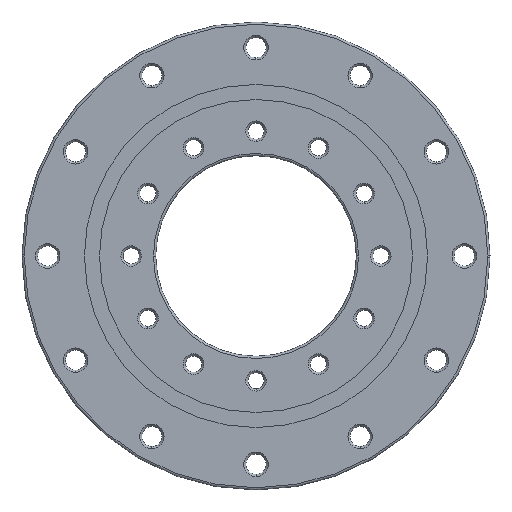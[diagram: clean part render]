
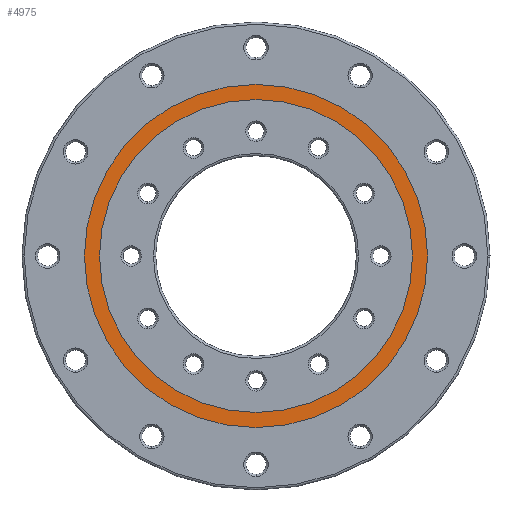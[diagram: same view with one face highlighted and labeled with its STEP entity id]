
A CAD part, front view. The second image highlights one B-rep face of the part: STEP entity #4975.
In plain terms, the highlighted planar face has unit normal (0, -1, 0).
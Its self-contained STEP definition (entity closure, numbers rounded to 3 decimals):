
#2931=VERTEX_POINT('',#7525);
#3553=VERTEX_POINT('',#8221);
#4435=VERTEX_POINT('',#9219);
#4815=EDGE_CURVE('',#3553,#2931,#9643,.T.);
#4975=ADVANCED_FACE('',(#9851,#9852),#9853,.F.);
#5153=VERTEX_POINT('',#10045);
#5237=EDGE_CURVE('',#2931,#3553,#10138,.T.);
#5291=EDGE_CURVE('',#4435,#5153,#10196,.T.);
#6571=EDGE_CURVE('',#5153,#4435,#11642,.T.);
#7525=CARTESIAN_POINT('',(70.2,0.0,0.0));
#8221=CARTESIAN_POINT('',(-70.2,0.0,0.0));
#9219=CARTESIAN_POINT('',(-77.0,0.0,0.));
#9643=CIRCLE('',#15549,70.2);
#9851=FACE_OUTER_BOUND('',#15795,.T.);
#9852=FACE_BOUND('',#15796,.T.);
#9853=PLANE('',#15797);
#10045=CARTESIAN_POINT('',(77.0,0.0,0.0));
#10138=CIRCLE('',#16155,70.2);
#10196=CIRCLE('',#16232,77.0);
#11642=CIRCLE('',#18085,77.0);
#15549=AXIS2_PLACEMENT_3D('',#21963,#21964,#21965);
#15795=EDGE_LOOP('',(#22315,#22316));
#15796=EDGE_LOOP('',(#22317,#22318));
#15797=AXIS2_PLACEMENT_3D('',#22319,#22320,#22321);
#16155=AXIS2_PLACEMENT_3D('',#22639,#22640,#22641);
#16232=AXIS2_PLACEMENT_3D('',#22716,#22717,#22718);
#18085=AXIS2_PLACEMENT_3D('',#24626,#24627,#24628);
#21963=CARTESIAN_POINT('',(0.0,0.0,0.0));
#21964=DIRECTION('',(0.0,-1.0,0.0));
#21965=DIRECTION('',(-1.0,0.0,0.0));
#22315=ORIENTED_EDGE('',*,*,#5291,.F.);
#22316=ORIENTED_EDGE('',*,*,#6571,.F.);
#22317=ORIENTED_EDGE('',*,*,#4815,.F.);
#22318=ORIENTED_EDGE('',*,*,#5237,.F.);
#22319=CARTESIAN_POINT('',(0.0,0.0,0.0));
#22320=DIRECTION('',(0.0,1.0,0.0));
#22321=DIRECTION('',(1.0,0.0,-0.0));
#22639=CARTESIAN_POINT('',(0.0,0.0,0.0));
#22640=DIRECTION('',(0.0,-1.0,0.0));
#22641=DIRECTION('',(1.0,0.0,0.0));
#22716=CARTESIAN_POINT('',(0.0,0.0,0.0));
#22717=DIRECTION('',(0.0,1.0,0.0));
#22718=DIRECTION('',(-1.0,0.0,0.0));
#24626=CARTESIAN_POINT('',(0.0,0.0,0.0));
#24627=DIRECTION('',(-0.0,1.0,0.0));
#24628=DIRECTION('',(1.0,0.0,0.0));
